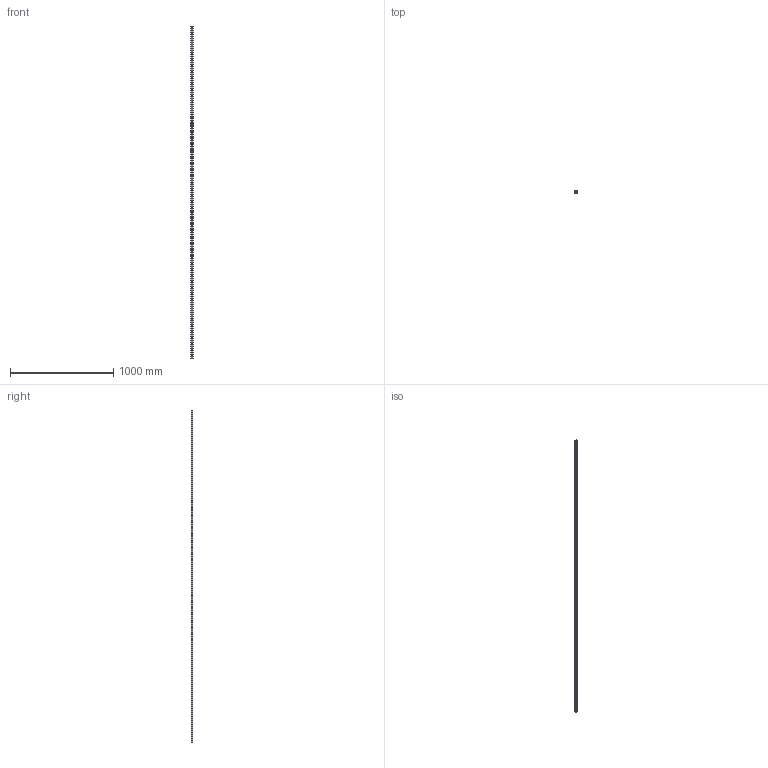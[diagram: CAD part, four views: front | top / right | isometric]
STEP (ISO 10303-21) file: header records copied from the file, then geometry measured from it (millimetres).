
FILE_DESCRIPTION (( 'STEP AP203' ), '1' );
FILE_NAME ('L1016.BRF25-3220.step', '2019-06-13T08:45:48', ( '' ), ( '' ), 'SwSTEP 2.0', 'SolidWorks 2017', '' );
FILE_SCHEMA (( 'CONFIG_CONTROL_DESIGN' ));
Length unit declared in the file: millimetre
Products named in the file (1): L1016.BRF25-3220
Bounding box: 23 x 19.2 x 3220 mm (x, y, z)
Volume: 1229421.5 mm3; surface area: 296239.6 mm2
Topology: 1 solids, 1 shells, 404 faces, 936 edges, 534 vertices
Faces by surface type: cylinder 220, cone 108, plane 76
Entity records: 10837 total; most frequent: DIRECTION 2078, CARTESIAN_POINT 1767, ORIENTED_EDGE 1656, AXIS2_PLACEMENT_3D 845, EDGE_CURVE 828, VERTEX_POINT 534, EDGE_LOOP 512, CIRCLE 440
